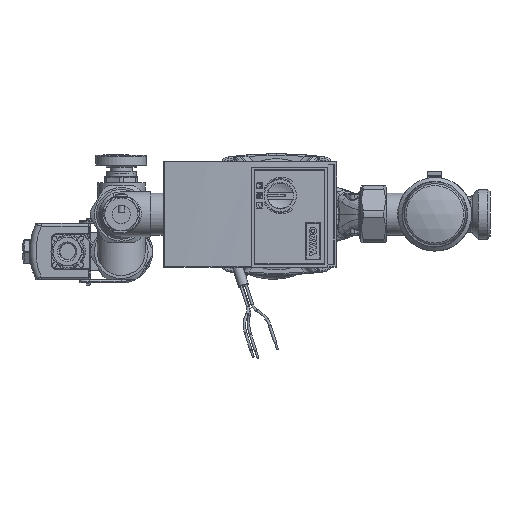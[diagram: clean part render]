
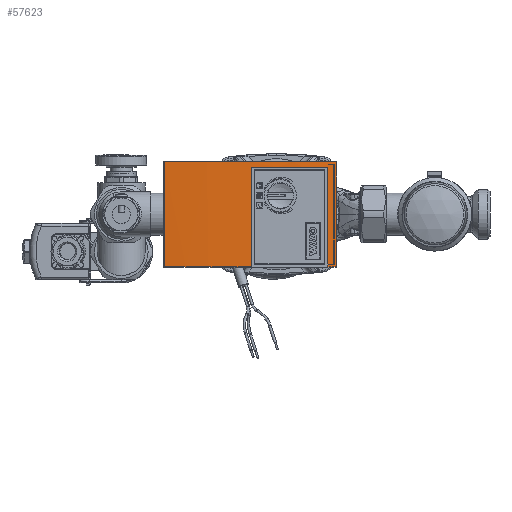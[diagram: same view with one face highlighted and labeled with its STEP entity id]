
A CAD part, front view. The second image highlights one B-rep face of the part: STEP entity #57623.
In plain terms, the highlighted cylindrical face has radius 875.563 mm (diameter 1751.13 mm), a partial arc.
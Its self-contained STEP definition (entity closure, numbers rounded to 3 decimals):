
#56580=CARTESIAN_POINT('',(-71.665,-55.896,31.356));
#56581=VERTEX_POINT('',#56580);
#56582=CARTESIAN_POINT('',(-71.866,-55.913,31.556));
#56583=VERTEX_POINT('',#56582);
#56584=CARTESIAN_POINT('',(-71.665,-55.896,31.356));
#56585=CARTESIAN_POINT('',(-71.665,-55.896,31.381));
#56586=CARTESIAN_POINT('',(-71.67,-55.897,31.408));
#56587=CARTESIAN_POINT('',(-71.691,-55.898,31.457));
#56588=CARTESIAN_POINT('',(-71.706,-55.9,31.48));
#56589=CARTESIAN_POINT('',(-71.742,-55.903,31.515));
#56590=CARTESIAN_POINT('',(-71.764,-55.905,31.53));
#56591=CARTESIAN_POINT('',(-71.814,-55.909,31.551));
#56592=CARTESIAN_POINT('',(-71.841,-55.911,31.556));
#56593=CARTESIAN_POINT('',(-71.866,-55.913,31.556));
#56594=B_SPLINE_CURVE_WITH_KNOTS('',3,(#56584,#56585,#56586,#56587,#56588,#56589,#56590,#56591,#56592,#56593),.UNSPECIFIED.,.F.,.U.,(4,2,2,2,4),(-0.121,-0.113,-0.106,-0.098,-0.091),.UNSPECIFIED.);
#56595=EDGE_CURVE('',#56581,#56583,#56594,.T.);
#57016=CARTESIAN_POINT('',(-71.665,-55.896,-35.142));
#57017=VERTEX_POINT('',#57016);
#57036=CARTESIAN_POINT('',(-65.833,-55.376,-35.12));
#57037=VERTEX_POINT('',#57036);
#57045=CARTESIAN_POINT('',(-146.387,813.728,2.818));
#57046=DIRECTION('',(0.,0.044,-0.999));
#57047=DIRECTION('',(0.086,-0.995,-0.043));
#57048=AXIS2_PLACEMENT_3D('',#57045,#57046,#57047);
#57049=CIRCLE('',#57048,873.654);
#57050=EDGE_CURVE('',#57037,#57017,#57049,.T.);
#57077=CARTESIAN_POINT('',(-65.833,-55.376,35.12));
#57078=VERTEX_POINT('',#57077);
#57079=CARTESIAN_POINT('',(-65.833,-55.376,35.12));
#57080=DIRECTION('',(0.0,0.0,-1.0));
#57081=VECTOR('',#57080,70.239);
#57082=LINE('',#57079,#57081);
#57083=EDGE_CURVE('',#57078,#57037,#57082,.T.);
#57148=CARTESIAN_POINT('',(-181.231,-58.41,35.252));
#57149=VERTEX_POINT('',#57148);
#57150=CARTESIAN_POINT('',(-140.673,595.237,6.72));
#57151=DIRECTION('',(0.,0.044,0.999));
#57152=DIRECTION('',(-1.,-0.026,0.001));
#57153=AXIS2_PLACEMENT_3D('',#57150,#57151,#57152);
#57154=ELLIPSE('',#57153,757.144,654.882);
#57155=EDGE_CURVE('',#57149,#57078,#57154,.T.);
#57443=CARTESIAN_POINT('',(-181.231,-58.41,-35.252));
#57444=VERTEX_POINT('',#57443);
#57452=CARTESIAN_POINT('',(-181.231,-58.41,-35.252));
#57453=DIRECTION('',(0.0,0.0,1.0));
#57454=VECTOR('',#57453,70.504);
#57455=LINE('',#57452,#57454);
#57456=EDGE_CURVE('',#57444,#57149,#57455,.T.);
#57505=CARTESIAN_POINT('',(-122.727,-58.776,-35.268));
#57506=VERTEX_POINT('',#57505);
#57514=CARTESIAN_POINT('',(-140.669,596.058,-6.684));
#57515=DIRECTION('',(0.,0.044,-0.999));
#57516=DIRECTION('',(-1.,-0.027,-0.001));
#57517=AXIS2_PLACEMENT_3D('',#57514,#57515,#57516);
#57518=ELLIPSE('',#57517,757.619,655.703);
#57519=EDGE_CURVE('',#57506,#57444,#57518,.T.);
#57532=CARTESIAN_POINT('',(-122.727,-58.777,31.306));
#57533=VERTEX_POINT('',#57532);
#57534=CARTESIAN_POINT('',(-122.727,-58.777,31.306));
#57535=DIRECTION('',(0.,0.,-1.0));
#57536=VECTOR('',#57535,66.574);
#57537=LINE('',#57534,#57536);
#57538=EDGE_CURVE('',#57533,#57506,#57537,.T.);
#57557=CARTESIAN_POINT('',(-122.527,-58.771,31.506));
#57558=VERTEX_POINT('',#57557);
#57559=CARTESIAN_POINT('',(-122.527,-58.771,31.506));
#57560=CARTESIAN_POINT('',(-122.552,-58.772,31.506));
#57561=CARTESIAN_POINT('',(-122.579,-58.773,31.501));
#57562=CARTESIAN_POINT('',(-122.628,-58.774,31.48));
#57563=CARTESIAN_POINT('',(-122.651,-58.775,31.465));
#57564=CARTESIAN_POINT('',(-122.686,-58.776,31.429));
#57565=CARTESIAN_POINT('',(-122.702,-58.776,31.407));
#57566=CARTESIAN_POINT('',(-122.722,-58.777,31.358));
#57567=CARTESIAN_POINT('',(-122.727,-58.777,31.331));
#57568=CARTESIAN_POINT('',(-122.727,-58.777,31.306));
#57569=B_SPLINE_CURVE_WITH_KNOTS('',3,(#57559,#57560,#57561,#57562,#57563,#57564,#57565,#57566,#57567,#57568),.UNSPECIFIED.,.F.,.U.,(4,2,2,2,4),(-0.03,-0.023,-0.015,-0.008,0.),.UNSPECIFIED.);
#57570=EDGE_CURVE('',#57558,#57533,#57569,.T.);
#57588=CARTESIAN_POINT('',(-146.487,816.198,46.774));
#57589=DIRECTION('',(0.,0.017,-1.));
#57590=DIRECTION('',(0.027,-0.999,-0.017));
#57591=AXIS2_PLACEMENT_3D('',#57588,#57589,#57590);
#57592=CIRCLE('',#57591,875.431);
#57593=EDGE_CURVE('',#56583,#57558,#57592,.T.);
#57601=CARTESIAN_POINT('',(-146.487,816.464,42.339));
#57602=DIRECTION('',(0.,0.,1.0));
#57603=DIRECTION('',(0.03,-1.,0.));
#57604=AXIS2_PLACEMENT_3D('',#57601,#57602,#57603);
#57605=CYLINDRICAL_SURFACE('',#57604,875.563);
#57606=ORIENTED_EDGE('',*,*,#57593,.F.);
#57607=ORIENTED_EDGE('',*,*,#56595,.F.);
#57608=CARTESIAN_POINT('',(-71.665,-55.896,31.356));
#57609=DIRECTION('',(0.,0.,-1.0));
#57610=VECTOR('',#57609,66.498);
#57611=LINE('',#57608,#57610);
#57612=EDGE_CURVE('',#56581,#57017,#57611,.T.);
#57613=ORIENTED_EDGE('',*,*,#57612,.T.);
#57614=ORIENTED_EDGE('',*,*,#57050,.F.);
#57615=ORIENTED_EDGE('',*,*,#57083,.F.);
#57616=ORIENTED_EDGE('',*,*,#57155,.F.);
#57617=ORIENTED_EDGE('',*,*,#57456,.F.);
#57618=ORIENTED_EDGE('',*,*,#57519,.F.);
#57619=ORIENTED_EDGE('',*,*,#57538,.F.);
#57620=ORIENTED_EDGE('',*,*,#57570,.F.);
#57621=EDGE_LOOP('',(#57606,#57607,#57613,#57614,#57615,#57616,#57617,#57618,#57619,#57620));
#57622=FACE_OUTER_BOUND('',#57621,.T.);
#57623=ADVANCED_FACE('',(#57622),#57605,.T.);
